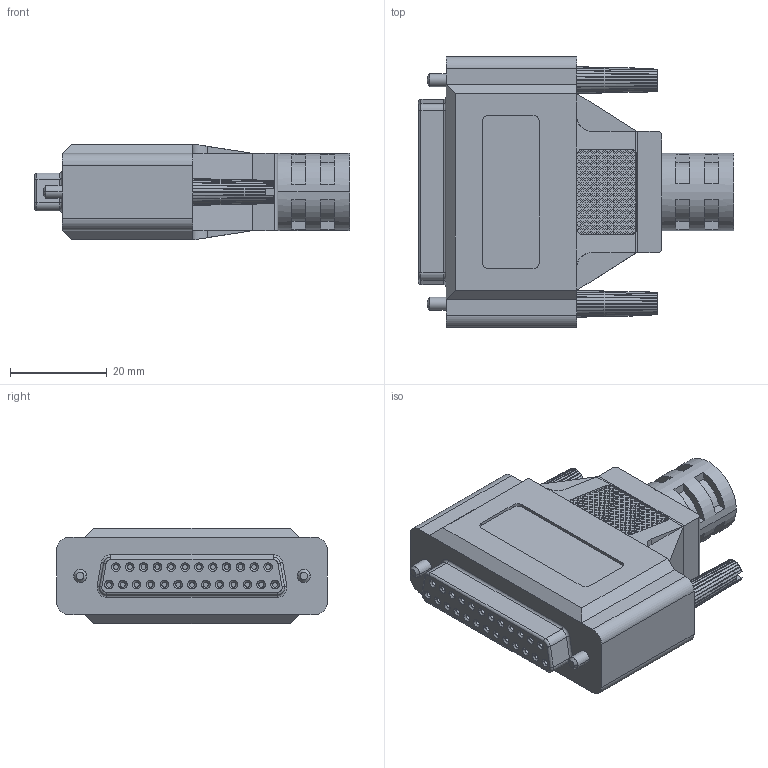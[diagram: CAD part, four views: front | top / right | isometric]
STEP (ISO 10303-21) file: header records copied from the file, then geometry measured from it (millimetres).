
FILE_DESCRIPTION((''),'2;1');
FILE_NAME('CU_DSUB_CABLE_BACKSHELL_25_POS','2007-06-22T',('jpearson'),(''),'PRO/ENGINEER BY PARAMETRIC TECHNOLOGY CORPORATION, 2006080','PRO/ENGINEER BY PARAMETRIC TECHNOLOGY CORPORATION, 2006080','');
FILE_SCHEMA(('CONFIG_CONTROL_DESIGN'));
Products named in the file (1): CU_DSUB_CABLE_BACKSHELL_25_POS
Bounding box: 65.28 x 56.13 x 19.86 mm (x, y, z)
Volume: 41966.4 mm3; surface area: 10546.5 mm2
Topology: 1 solids, 1 shells, 2381 faces, 5890 edges, 3880 vertices
Faces by surface type: plane 2165, cylinder 106, cone 102, torus 8
Entity records: 69280 total; most frequent: CARTESIAN_POINT 12217, ORIENTED_EDGE 11780, DIRECTION 11054, EDGE_CURVE 5890, VECTOR 5464, LINE 5464, VERTEX_POINT 3880, AXIS2_PLACEMENT_3D 2795
